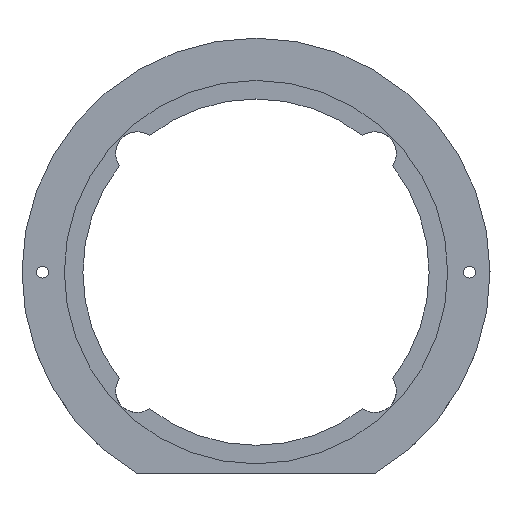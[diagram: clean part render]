
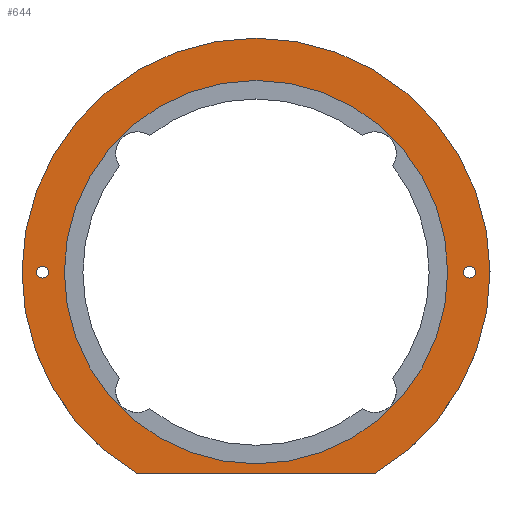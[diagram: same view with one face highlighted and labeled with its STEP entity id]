
A CAD part, top view. The second image highlights one B-rep face of the part: STEP entity #644.
In plain terms, the highlighted planar face has unit normal (0, 0, 1).
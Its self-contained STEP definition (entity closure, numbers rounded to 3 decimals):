
#33 = CYLINDRICAL_SURFACE('',#34,65.);
#34 = AXIS2_PLACEMENT_3D('',#35,#36,#37);
#35 = CARTESIAN_POINT('',(0.,0.,0.));
#36 = DIRECTION('',(-0.,-0.,-1.));
#37 = DIRECTION('',(1.,0.,0.));
#58 = VERTEX_POINT('',#59);
#59 = CARTESIAN_POINT('',(33.,-56.,17.));
#72 = PLANE('',#73);
#73 = AXIS2_PLACEMENT_3D('',#74,#75,#76);
#74 = CARTESIAN_POINT('',(-200.,-56.,-280.));
#75 = DIRECTION('',(0.,1.,0.));
#76 = DIRECTION('',(0.,0.,1.));
#83 = EDGE_CURVE('',#84,#58,#86,.T.);
#84 = VERTEX_POINT('',#85);
#85 = CARTESIAN_POINT('',(-33.,-56.,17.));
#86 = SURFACE_CURVE('',#87,(#92,#99),.PCURVE_S1.);
#87 = CIRCLE('',#88,65.);
#88 = AXIS2_PLACEMENT_3D('',#89,#90,#91);
#89 = CARTESIAN_POINT('',(0.,0.,17.));
#90 = DIRECTION('',(-0.,0.,-1.));
#91 = DIRECTION('',(-0.508,-0.862,0.));
#92 = PCURVE('',#33,#93);
#93 = DEFINITIONAL_REPRESENTATION('',(#94),#98);
#94 = LINE('',#95,#96);
#95 = CARTESIAN_POINT('',(-10.463,-17.));
#96 = VECTOR('',#97,1.);
#97 = DIRECTION('',(1.,-0.));
#98 = ( GEOMETRIC_REPRESENTATION_CONTEXT(2) 
PARAMETRIC_REPRESENTATION_CONTEXT() REPRESENTATION_CONTEXT('2D SPACE',''
  ) );
#99 = PCURVE('',#100,#105);
#100 = PLANE('',#101);
#101 = AXIS2_PLACEMENT_3D('',#102,#103,#104);
#102 = CARTESIAN_POINT('',(0.,0.,17.));
#103 = DIRECTION('',(0.,0.,1.));
#104 = DIRECTION('',(1.,0.,-0.));
#105 = DEFINITIONAL_REPRESENTATION('',(#106),#114);
#106 = ( BOUNDED_CURVE() B_SPLINE_CURVE(2,(#107,#108,#109,#110,#111,#112
,#113),.UNSPECIFIED.,.T.,.F.) B_SPLINE_CURVE_WITH_KNOTS((1,2,2,2,2,1),(
    -2.094,0.,2.094,4.189,6.283,
8.378),.UNSPECIFIED.) CURVE() GEOMETRIC_REPRESENTATION_ITEM() 
RATIONAL_B_SPLINE_CURVE((1.,0.5,1.,0.5,1.,0.5,1.)) REPRESENTATION_ITEM(
  '') );
#107 = CARTESIAN_POINT('',(-33.,-56.));
#108 = CARTESIAN_POINT('',(-129.995,1.158));
#109 = CARTESIAN_POINT('',(-31.997,56.579));
#110 = CARTESIAN_POINT('',(66.,112.));
#111 = CARTESIAN_POINT('',(64.997,-0.579));
#112 = CARTESIAN_POINT('',(63.995,-113.158));
#113 = CARTESIAN_POINT('',(-33.,-56.));
#114 = ( GEOMETRIC_REPRESENTATION_CONTEXT(2) 
PARAMETRIC_REPRESENTATION_CONTEXT() REPRESENTATION_CONTEXT('2D SPACE',''
  ) );
#251 = CYLINDRICAL_SURFACE('',#252,1.65);
#252 = AXIS2_PLACEMENT_3D('',#253,#254,#255);
#253 = CARTESIAN_POINT('',(-59.3,0.,-0.5));
#254 = DIRECTION('',(-0.,-0.,-1.));
#255 = DIRECTION('',(1.,0.,0.));
#573 = CYLINDRICAL_SURFACE('',#574,1.65);
#574 = AXIS2_PLACEMENT_3D('',#575,#576,#577);
#575 = CARTESIAN_POINT('',(59.3,0.,-0.5));
#576 = DIRECTION('',(-0.,-0.,-1.));
#577 = DIRECTION('',(1.,0.,0.));
#624 = EDGE_CURVE('',#58,#84,#625,.T.);
#625 = SURFACE_CURVE('',#626,(#630,#636),.PCURVE_S1.);
#626 = LINE('',#627,#628);
#627 = CARTESIAN_POINT('',(-100.,-56.,17.));
#628 = VECTOR('',#629,1.);
#629 = DIRECTION('',(-1.,0.,0.));
#630 = PCURVE('',#72,#631);
#631 = DEFINITIONAL_REPRESENTATION('',(#632),#635);
#632 = B_SPLINE_CURVE_WITH_KNOTS('',1,(#633,#634),.UNSPECIFIED.,.F.,.F.,
  (2,2),(-165.,-35.),.PIECEWISE_BEZIER_KNOTS.);
#633 = CARTESIAN_POINT('',(297.,265.));
#634 = CARTESIAN_POINT('',(297.,135.));
#635 = ( GEOMETRIC_REPRESENTATION_CONTEXT(2) 
PARAMETRIC_REPRESENTATION_CONTEXT() REPRESENTATION_CONTEXT('2D SPACE',''
  ) );
#636 = PCURVE('',#100,#637);
#637 = DEFINITIONAL_REPRESENTATION('',(#638),#641);
#638 = B_SPLINE_CURVE_WITH_KNOTS('',1,(#639,#640),.UNSPECIFIED.,.F.,.F.,
  (2,2),(-165.,-35.),.PIECEWISE_BEZIER_KNOTS.);
#639 = CARTESIAN_POINT('',(65.,-56.));
#640 = CARTESIAN_POINT('',(-65.,-56.));
#641 = ( GEOMETRIC_REPRESENTATION_CONTEXT(2) 
PARAMETRIC_REPRESENTATION_CONTEXT() REPRESENTATION_CONTEXT('2D SPACE',''
  ) );
#644 = ADVANCED_FACE('',(#645,#649,#679,#714),#100,.T.);
#645 = FACE_BOUND('',#646,.T.);
#646 = EDGE_LOOP('',(#647,#648));
#647 = ORIENTED_EDGE('',*,*,#624,.F.);
#648 = ORIENTED_EDGE('',*,*,#83,.F.);
#649 = FACE_BOUND('',#650,.T.);
#650 = EDGE_LOOP('',(#651));
#651 = ORIENTED_EDGE('',*,*,#652,.T.);
#652 = EDGE_CURVE('',#653,#653,#655,.T.);
#653 = VERTEX_POINT('',#654);
#654 = CARTESIAN_POINT('',(-57.65,0.,17.));
#655 = SURFACE_CURVE('',#656,(#661,#672),.PCURVE_S1.);
#656 = CIRCLE('',#657,1.65);
#657 = AXIS2_PLACEMENT_3D('',#658,#659,#660);
#658 = CARTESIAN_POINT('',(-59.3,0.,17.));
#659 = DIRECTION('',(0.,0.,-1.));
#660 = DIRECTION('',(1.,0.,0.));
#661 = PCURVE('',#100,#662);
#662 = DEFINITIONAL_REPRESENTATION('',(#663),#671);
#663 = ( BOUNDED_CURVE() B_SPLINE_CURVE(2,(#664,#665,#666,#667,#668,#669
,#670),.UNSPECIFIED.,.T.,.F.) B_SPLINE_CURVE_WITH_KNOTS((1,2,2,2,2,1),(
    -2.094,0.,2.094,4.189,6.283,
8.378),.UNSPECIFIED.) CURVE() GEOMETRIC_REPRESENTATION_ITEM() 
RATIONAL_B_SPLINE_CURVE((1.,0.5,1.,0.5,1.,0.5,1.)) REPRESENTATION_ITEM(
  '') );
#664 = CARTESIAN_POINT('',(-57.65,0.));
#665 = CARTESIAN_POINT('',(-57.65,-2.858));
#666 = CARTESIAN_POINT('',(-60.125,-1.429));
#667 = CARTESIAN_POINT('',(-62.6,0.));
#668 = CARTESIAN_POINT('',(-60.125,1.429));
#669 = CARTESIAN_POINT('',(-57.65,2.858));
#670 = CARTESIAN_POINT('',(-57.65,0.));
#671 = ( GEOMETRIC_REPRESENTATION_CONTEXT(2) 
PARAMETRIC_REPRESENTATION_CONTEXT() REPRESENTATION_CONTEXT('2D SPACE',''
  ) );
#672 = PCURVE('',#251,#673);
#673 = DEFINITIONAL_REPRESENTATION('',(#674),#678);
#674 = LINE('',#675,#676);
#675 = CARTESIAN_POINT('',(-6.283,-17.5));
#676 = VECTOR('',#677,1.);
#677 = DIRECTION('',(1.,-0.));
#678 = ( GEOMETRIC_REPRESENTATION_CONTEXT(2) 
PARAMETRIC_REPRESENTATION_CONTEXT() REPRESENTATION_CONTEXT('2D SPACE',''
  ) );
#679 = FACE_BOUND('',#680,.T.);
#680 = EDGE_LOOP('',(#681));
#681 = ORIENTED_EDGE('',*,*,#682,.T.);
#682 = EDGE_CURVE('',#683,#683,#685,.T.);
#683 = VERTEX_POINT('',#684);
#684 = CARTESIAN_POINT('',(53.25,0.,17.));
#685 = SURFACE_CURVE('',#686,(#691,#702),.PCURVE_S1.);
#686 = CIRCLE('',#687,53.25);
#687 = AXIS2_PLACEMENT_3D('',#688,#689,#690);
#688 = CARTESIAN_POINT('',(0.,0.,17.));
#689 = DIRECTION('',(0.,0.,-1.));
#690 = DIRECTION('',(1.,0.,0.));
#691 = PCURVE('',#100,#692);
#692 = DEFINITIONAL_REPRESENTATION('',(#693),#701);
#693 = ( BOUNDED_CURVE() B_SPLINE_CURVE(2,(#694,#695,#696,#697,#698,#699
,#700),.UNSPECIFIED.,.T.,.F.) B_SPLINE_CURVE_WITH_KNOTS((1,2,2,2,2,1),(
    -2.094,0.,2.094,4.189,6.283,
8.378),.UNSPECIFIED.) CURVE() GEOMETRIC_REPRESENTATION_ITEM() 
RATIONAL_B_SPLINE_CURVE((1.,0.5,1.,0.5,1.,0.5,1.)) REPRESENTATION_ITEM(
  '') );
#694 = CARTESIAN_POINT('',(53.25,0.));
#695 = CARTESIAN_POINT('',(53.25,-92.232));
#696 = CARTESIAN_POINT('',(-26.625,-46.116));
#697 = CARTESIAN_POINT('',(-106.5,0.));
#698 = CARTESIAN_POINT('',(-26.625,46.116));
#699 = CARTESIAN_POINT('',(53.25,92.232));
#700 = CARTESIAN_POINT('',(53.25,0.));
#701 = ( GEOMETRIC_REPRESENTATION_CONTEXT(2) 
PARAMETRIC_REPRESENTATION_CONTEXT() REPRESENTATION_CONTEXT('2D SPACE',''
  ) );
#702 = PCURVE('',#703,#708);
#703 = CYLINDRICAL_SURFACE('',#704,53.25);
#704 = AXIS2_PLACEMENT_3D('',#705,#706,#707);
#705 = CARTESIAN_POINT('',(0.,0.,15.));
#706 = DIRECTION('',(-0.,-0.,-1.));
#707 = DIRECTION('',(1.,0.,0.));
#708 = DEFINITIONAL_REPRESENTATION('',(#709),#713);
#709 = LINE('',#710,#711);
#710 = CARTESIAN_POINT('',(-6.283,-2.));
#711 = VECTOR('',#712,1.);
#712 = DIRECTION('',(1.,-0.));
#713 = ( GEOMETRIC_REPRESENTATION_CONTEXT(2) 
PARAMETRIC_REPRESENTATION_CONTEXT() REPRESENTATION_CONTEXT('2D SPACE',''
  ) );
#714 = FACE_BOUND('',#715,.T.);
#715 = EDGE_LOOP('',(#716));
#716 = ORIENTED_EDGE('',*,*,#717,.T.);
#717 = EDGE_CURVE('',#718,#718,#720,.T.);
#718 = VERTEX_POINT('',#719);
#719 = CARTESIAN_POINT('',(60.95,0.,17.));
#720 = SURFACE_CURVE('',#721,(#726,#737),.PCURVE_S1.);
#721 = CIRCLE('',#722,1.65);
#722 = AXIS2_PLACEMENT_3D('',#723,#724,#725);
#723 = CARTESIAN_POINT('',(59.3,0.,17.));
#724 = DIRECTION('',(0.,0.,-1.));
#725 = DIRECTION('',(1.,0.,0.));
#726 = PCURVE('',#100,#727);
#727 = DEFINITIONAL_REPRESENTATION('',(#728),#736);
#728 = ( BOUNDED_CURVE() B_SPLINE_CURVE(2,(#729,#730,#731,#732,#733,#734
,#735),.UNSPECIFIED.,.T.,.F.) B_SPLINE_CURVE_WITH_KNOTS((1,2,2,2,2,1),(
    -2.094,0.,2.094,4.189,6.283,
8.378),.UNSPECIFIED.) CURVE() GEOMETRIC_REPRESENTATION_ITEM() 
RATIONAL_B_SPLINE_CURVE((1.,0.5,1.,0.5,1.,0.5,1.)) REPRESENTATION_ITEM(
  '') );
#729 = CARTESIAN_POINT('',(60.95,0.));
#730 = CARTESIAN_POINT('',(60.95,-2.858));
#731 = CARTESIAN_POINT('',(58.475,-1.429));
#732 = CARTESIAN_POINT('',(56.,0.));
#733 = CARTESIAN_POINT('',(58.475,1.429));
#734 = CARTESIAN_POINT('',(60.95,2.858));
#735 = CARTESIAN_POINT('',(60.95,0.));
#736 = ( GEOMETRIC_REPRESENTATION_CONTEXT(2) 
PARAMETRIC_REPRESENTATION_CONTEXT() REPRESENTATION_CONTEXT('2D SPACE',''
  ) );
#737 = PCURVE('',#573,#738);
#738 = DEFINITIONAL_REPRESENTATION('',(#739),#743);
#739 = LINE('',#740,#741);
#740 = CARTESIAN_POINT('',(-6.283,-17.5));
#741 = VECTOR('',#742,1.);
#742 = DIRECTION('',(1.,-0.));
#743 = ( GEOMETRIC_REPRESENTATION_CONTEXT(2) 
PARAMETRIC_REPRESENTATION_CONTEXT() REPRESENTATION_CONTEXT('2D SPACE',''
  ) );
